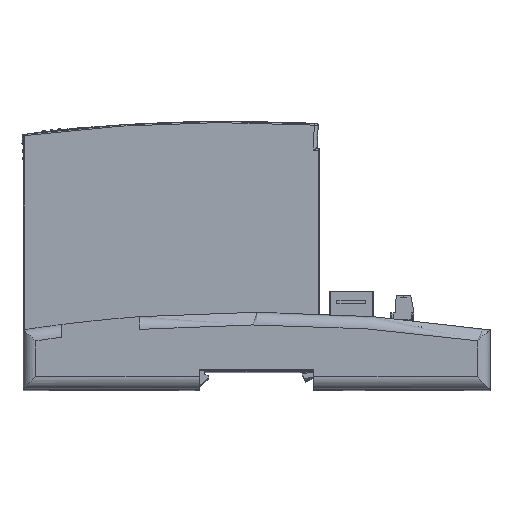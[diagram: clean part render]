
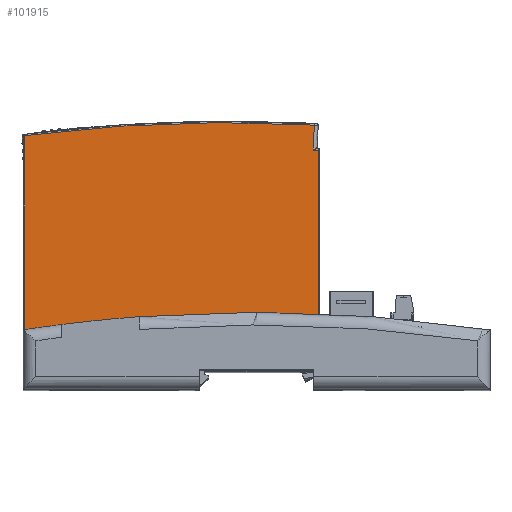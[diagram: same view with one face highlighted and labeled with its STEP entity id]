
A CAD part, top view. The second image highlights one B-rep face of the part: STEP entity #101915.
In plain terms, the highlighted planar face has unit normal (0, 0, 1).
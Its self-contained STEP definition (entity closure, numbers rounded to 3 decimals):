
#14419=DIRECTION('',(1.,0.,0.));
#14420=VECTOR('',#14419,17.321);
#14421=CARTESIAN_POINT('',(53.94,21.1,-0.2));
#14422=LINE('',#14421,#14420);
#14423=CARTESIAN_POINT('',(62.6,16.1,-0.2));
#14424=DIRECTION('',(0.,0.,1.));
#14425=DIRECTION('',(0.866,0.5,0.));
#14426=AXIS2_PLACEMENT_3D('',#14423,#14424,#14425);
#14428=DIRECTION('',(1.,0.,0.));
#14429=VECTOR('',#14428,0.3);
#14430=CARTESIAN_POINT('',(33.3,21.1,-0.2));
#14431=LINE('',#14430,#14429);
#14432=DIRECTION('',(-1.,0.,0.));
#14433=VECTOR('',#14432,25.);
#14434=CARTESIAN_POINT('',(28.6,21.1,-0.2));
#14435=LINE('',#14434,#14433);
#14436=DIRECTION('',(0.,1.,0.));
#14437=VECTOR('',#14436,2.);
#14438=CARTESIAN_POINT('',(3.6,21.1,-0.2));
#14439=LINE('',#14438,#14437);
#14440=CARTESIAN_POINT('',(78.144,-496.603,
-0.2));
#14441=DIRECTION('',(0.,0.,-1.));
#14442=DIRECTION('',(-0.129,0.992,0.));
#14443=AXIS2_PLACEMENT_3D('',#14440,#14441,#14442);
#14445=CARTESIAN_POINT('',(203.417,92.8,-0.2));
#14446=DIRECTION('',(0.,0.,1.));
#14447=DIRECTION('',(-0.995,0.1,0.));
#14448=AXIS2_PLACEMENT_3D('',#14445,#14446,#14447);
#14450=DIRECTION('',(1.,0.,0.));
#14451=VECTOR('',#14450,38.783);
#14452=CARTESIAN_POINT('',(113.917,21.1,-0.2));
#14453=LINE('',#14452,#14451);
#14454=DIRECTION('',(0.,-1.,0.));
#14455=VECTOR('',#14454,2.4);
#14456=CARTESIAN_POINT('',(152.7,21.1,-0.2));
#14457=LINE('',#14456,#14455);
#14458=DIRECTION('',(-1.,0.,0.));
#14459=VECTOR('',#14458,120.598);
#14460=CARTESIAN_POINT('',(152.7,18.7,-0.2));
#14461=LINE('',#14460,#14459);
#15191=DIRECTION('',(1.,0.,0.));
#15192=VECTOR('',#15191,3.);
#15193=CARTESIAN_POINT('',(0.6,23.1,-0.2));
#15194=LINE('',#15193,#15192);
#15219=DIRECTION('',(0.,-1.,0.));
#15220=VECTOR('',#15219,74.761);
#15221=CARTESIAN_POINT('',(0.6,97.861,-0.2));
#15222=LINE('',#15221,#15220);
#15294=DIRECTION('',(0.,1.,0.));
#15295=VECTOR('',#15294,2.);
#15296=CARTESIAN_POINT('',(28.6,21.1,-0.2));
#15297=LINE('',#15296,#15295);
#15307=DIRECTION('',(1.,0.,0.));
#15308=VECTOR('',#15307,5.);
#15309=CARTESIAN_POINT('',(28.6,23.1,-0.2));
#15310=LINE('',#15309,#15308);
#15328=DIRECTION('',(0.,-1.,0.));
#15329=VECTOR('',#15328,2.);
#15330=CARTESIAN_POINT('',(33.6,23.1,-0.2));
#15331=LINE('',#15330,#15329);
#16594=DIRECTION('',(-1.,0.,0.));
#16595=VECTOR('',#16594,1.999);
#16596=CARTESIAN_POINT('',(113.917,92.3,-0.2));
#16597=LINE('',#16596,#16595);
#16608=DIRECTION('',(0.,1.,0.));
#16609=VECTOR('',#16608,71.2);
#16610=CARTESIAN_POINT('',(113.917,21.1,-0.2));
#16611=LINE('',#16610,#16609);
#48667=DIRECTION('',(-1.,0.,0.));
#48668=VECTOR('',#48667,1.2);
#48669=CARTESIAN_POINT('',(33.3,21.,-0.2));
#48670=LINE('',#48669,#48668);
#48688=DIRECTION('',(0.001,-1.,0.));
#48689=VECTOR('',#48688,2.3);
#48690=CARTESIAN_POINT('',(32.1,21.,-0.2));
#48691=LINE('',#48690,#48689);
#50374=DIRECTION('',(0.,1.,0.));
#50375=VECTOR('',#50374,0.1);
#50376=CARTESIAN_POINT('',(33.3,21.,-0.2));
#50377=LINE('',#50376,#50375);
#69624=CARTESIAN_POINT('',(152.7,18.7,-0.2));
#69625=CARTESIAN_POINT('',(32.102,18.7,-0.2));
#69626=VERTEX_POINT('',#69624);
#69627=VERTEX_POINT('',#69625);
#69628=CARTESIAN_POINT('',(152.7,21.1,-0.2));
#69629=VERTEX_POINT('',#69628);
#71937=CARTESIAN_POINT('',(3.6,21.1,-0.2));
#71939=VERTEX_POINT('',#71937);
#71942=CARTESIAN_POINT('',(28.6,21.1,-0.2));
#71944=VERTEX_POINT('',#71942);
#71947=CARTESIAN_POINT('',(3.6,23.1,-0.2));
#71949=VERTEX_POINT('',#71947);
#72047=CARTESIAN_POINT('',(28.6,23.1,-0.2));
#72048=CARTESIAN_POINT('',(33.6,23.1,-0.2));
#72049=VERTEX_POINT('',#72047);
#72050=VERTEX_POINT('',#72048);
#72051=CARTESIAN_POINT('',(0.6,23.1,-0.2));
#72052=VERTEX_POINT('',#72051);
#72053=CARTESIAN_POINT('',(0.6,97.861,-0.2));
#72054=VERTEX_POINT('',#72053);
#72055=CARTESIAN_POINT('',(112.373,101.92,
-0.2));
#72056=VERTEX_POINT('',#72055);
#72057=CARTESIAN_POINT('',(113.917,92.3,-0.2));
#72058=CARTESIAN_POINT('',(111.918,92.3,
-0.2));
#72059=VERTEX_POINT('',#72057);
#72060=VERTEX_POINT('',#72058);
#82047=CARTESIAN_POINT('',(33.3,21.,-0.2));
#82048=CARTESIAN_POINT('',(33.3,21.1,-0.2));
#82049=VERTEX_POINT('',#82047);
#82050=VERTEX_POINT('',#82048);
#82061=CARTESIAN_POINT('',(32.1,21.,-0.2));
#82062=VERTEX_POINT('',#82061);
#82768=CARTESIAN_POINT('',(71.26,21.1,-0.2));
#82770=VERTEX_POINT('',#82768);
#82772=CARTESIAN_POINT('',(53.94,21.1,-0.2));
#82774=VERTEX_POINT('',#82772);
#82775=CARTESIAN_POINT('',(113.917,21.1,-0.2));
#82776=VERTEX_POINT('',#82775);
#82783=CARTESIAN_POINT('',(33.6,21.1,-0.2));
#82784=VERTEX_POINT('',#82783);
#101871=CARTESIAN_POINT('',(92.4,19.9,-0.2));
#101872=DIRECTION('',(0.,0.,1.));
#101873=DIRECTION('',(1.,0.,0.));
#101874=AXIS2_PLACEMENT_3D('',#101871,#101872,#101873);
#101875=PLANE('',#101874);
#101876=ORIENTED_EDGE('',*,*,#93471,.T.);
#101878=ORIENTED_EDGE('',*,*,#101877,.F.);
#101880=ORIENTED_EDGE('',*,*,#101879,.F.);
#101882=ORIENTED_EDGE('',*,*,#101881,.F.);
#101884=ORIENTED_EDGE('',*,*,#101883,.T.);
#101886=ORIENTED_EDGE('',*,*,#101885,.T.);
#101888=ORIENTED_EDGE('',*,*,#101887,.F.);
#101890=ORIENTED_EDGE('',*,*,#101889,.F.);
#101892=ORIENTED_EDGE('',*,*,#101891,.T.);
#101893=ORIENTED_EDGE('',*,*,#101862,.T.);
#101895=ORIENTED_EDGE('',*,*,#101894,.F.);
#101897=ORIENTED_EDGE('',*,*,#101896,.F.);
#101898=ORIENTED_EDGE('',*,*,#93445,.T.);
#101900=ORIENTED_EDGE('',*,*,#101899,.T.);
#101901=ORIENTED_EDGE('',*,*,#94347,.T.);
#101903=ORIENTED_EDGE('',*,*,#101902,.F.);
#101905=ORIENTED_EDGE('',*,*,#101904,.F.);
#101907=ORIENTED_EDGE('',*,*,#101906,.T.);
#101908=EDGE_LOOP('',(#101876,#101878,#101880,#101882,#101884,#101886,#101888,
#101890,#101892,#101893,#101895,#101897,#101898,#101900,#101901,#101903,#101905,
#101907));
#101909=FACE_OUTER_BOUND('',#101908,.F.);
#101910=ORIENTED_EDGE('',*,*,#93461,.T.);
#101912=ORIENTED_EDGE('',*,*,#101911,.T.);
#101913=EDGE_LOOP('',(#101910,#101912));
#101914=FACE_BOUND('',#101913,.F.);
#14427=CIRCLE('',#14426,10.);
#14444=CIRCLE('',#14443,599.5);
#14449=CIRCLE('',#14448,91.5);
#93445=EDGE_CURVE('',#82776,#69629,#14453,.T.);
#93461=EDGE_CURVE('',#82774,#82770,#14422,.T.);
#93471=EDGE_CURVE('',#82050,#82784,#14431,.T.);
#94347=EDGE_CURVE('',#69626,#69627,#14461,.T.);
#101862=EDGE_CURVE('',#72056,#72060,#14449,.T.);
#101877=EDGE_CURVE('',#72050,#82784,#15331,.T.);
#101879=EDGE_CURVE('',#72049,#72050,#15310,.T.);
#101881=EDGE_CURVE('',#71944,#72049,#15297,.T.);
#101883=EDGE_CURVE('',#71944,#71939,#14435,.T.);
#101885=EDGE_CURVE('',#71939,#71949,#14439,.T.);
#101887=EDGE_CURVE('',#72052,#71949,#15194,.T.);
#101889=EDGE_CURVE('',#72054,#72052,#15222,.T.);
#101891=EDGE_CURVE('',#72054,#72056,#14444,.T.);
#101894=EDGE_CURVE('',#72059,#72060,#16597,.T.);
#101896=EDGE_CURVE('',#82776,#72059,#16611,.T.);
#101899=EDGE_CURVE('',#69629,#69626,#14457,.T.);
#101902=EDGE_CURVE('',#82062,#69627,#48691,.T.);
#101904=EDGE_CURVE('',#82049,#82062,#48670,.T.);
#101906=EDGE_CURVE('',#82049,#82050,#50377,.T.);
#101911=EDGE_CURVE('',#82770,#82774,#14427,.T.);
#101915=ADVANCED_FACE('',(#101909,#101914),#101875,.T.);
